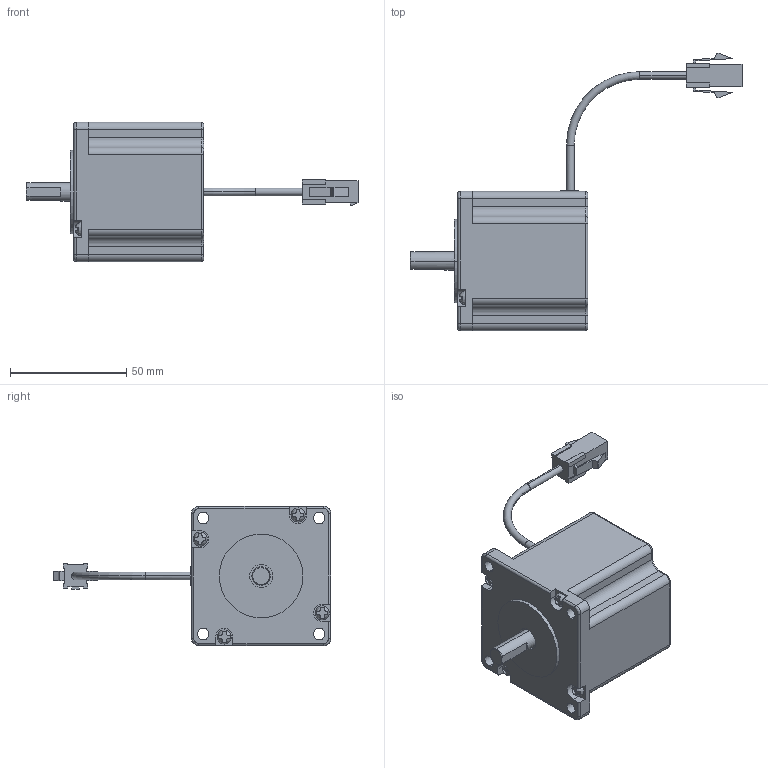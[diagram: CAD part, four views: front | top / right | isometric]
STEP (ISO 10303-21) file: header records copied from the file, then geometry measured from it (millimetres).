
FILE_DESCRIPTION (( 'STEP AP203' ), '1' );
FILE_NAME ('P21-MO-060-02-R00.STEP', '2015-06-30T08:34:46', ( '' ), ( '' ), 'SwSTEP 2.0', 'SolidWorks 2013', '' );
FILE_SCHEMA (( 'CONFIG_CONTROL_DESIGN' ));
Length unit declared in the file: millimetre
Products named in the file (3): Power_Cable_ル遽; P21-MO-060-02-R00; M21-MO-060-02-R00
Assembly tree (2 placements, depth 2):
  P21-MO-060-02-R00
    M21-MO-060-02-R00
    Power_Cable_ル遽
Bounding box: 143.07 x 119.61 x 60 mm (x, y, z)
Volume: 182630.2 mm3; surface area: 24549.3 mm2
Topology: 2 solids, 2 shells, 294 faces, 766 edges, 495 vertices
Faces by surface type: plane 179, cylinder 90, torus 14, bspline 8, cone 3
Entity records: 9654 total; most frequent: CARTESIAN_POINT 2079, ORIENTED_EDGE 1516, DIRECTION 1513, EDGE_CURVE 758, AXIS2_PLACEMENT_3D 512, VERTEX_POINT 495, VECTOR 489, LINE 489
